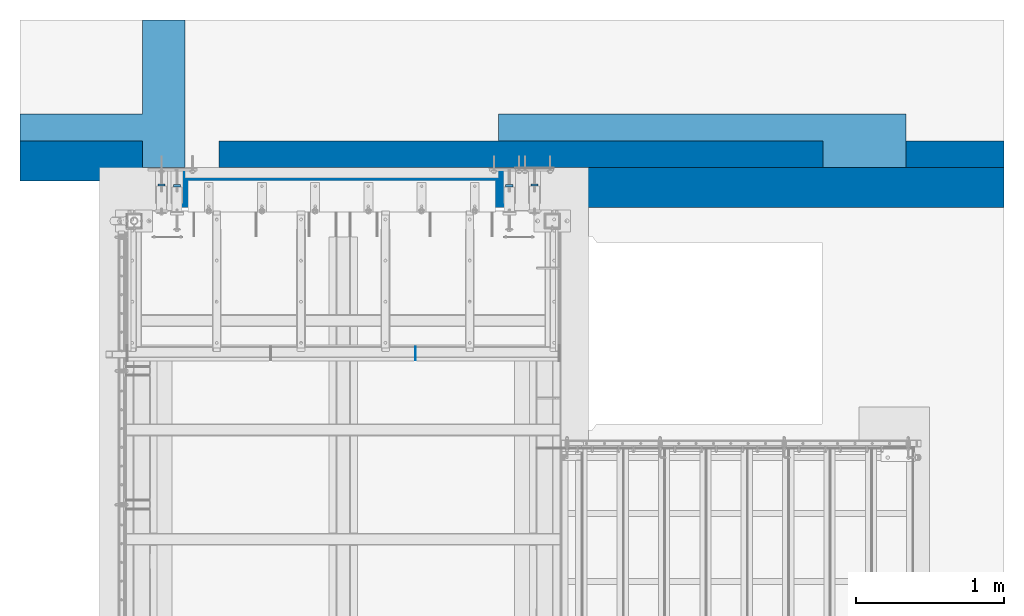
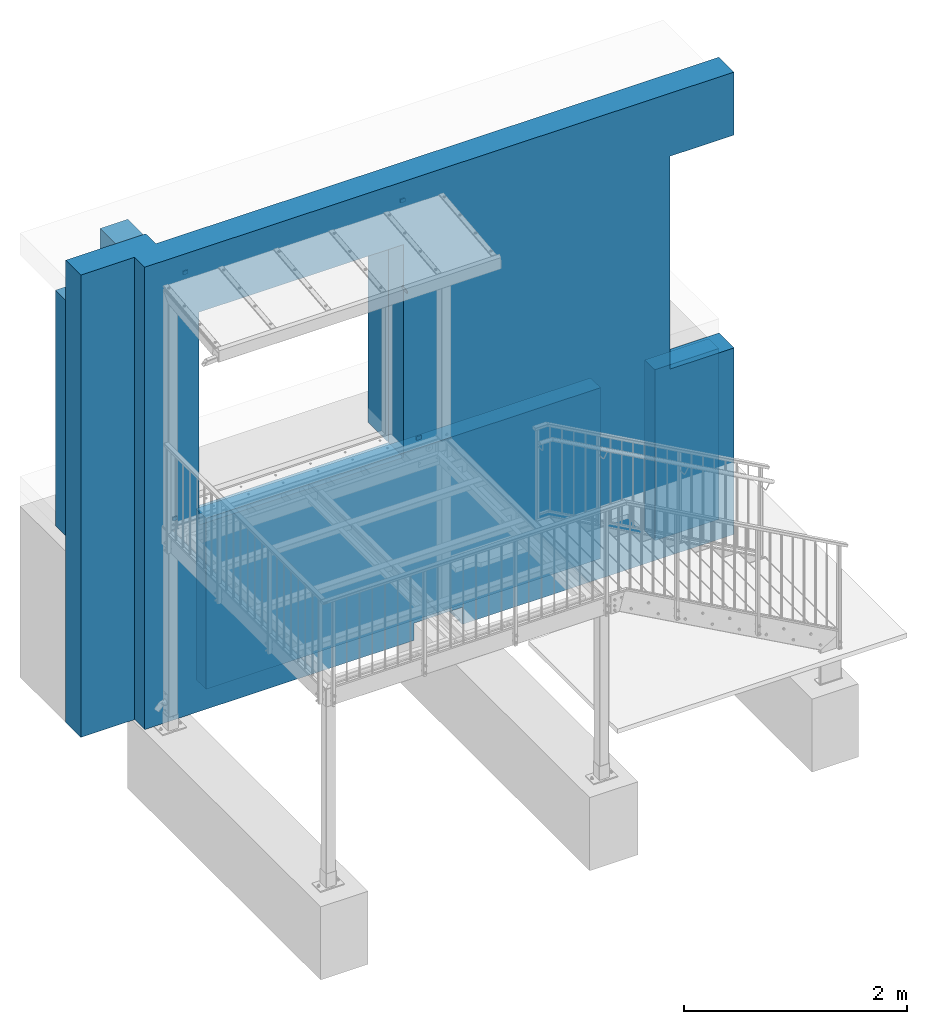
# One storey, part 27 of 116: 5 plates, 3 walls, 20 openings.
"""IFC2X3 building model written with IfcOpenShell, lengths in millimetres."""

import ifcopenshell
import ifcopenshell.guid

model = None  # the IFC model being written
_history = None  # IfcOwnerHistory: only IFC2X3 demands one
_inside = {}  # id of a spatial element -> (the spatial element, [elements in it])
_under = {}  # id of a project, library or spatial element -> (it, [spatial elements below it])
_declared = {}  # id of a project -> (the project, [libraries it declares])
_typed = {}  # id of a type object -> (the type object, [elements of that type])
_made_of = {}  # id of a material, layer set ... -> (it, [elements and type objects made of it])


def new_model(schema):
    """Start an empty IFC model of exactly this schema.

    Asked for "IFC4X3", IfcOpenShell would pick the latest addendum, in which some entities
    have other attributes; the version numbers below select the first issue.
    IFC2X3 requires an IfcOwnerHistory on every rooted entity: one is made here for all.
    """
    global model, _history
    if schema == "IFC4X3":
        model = ifcopenshell.file(schema_version=(4, 3, 0, 0))
    else:
        model = ifcopenshell.file(schema=schema)
    _inside.clear()
    _under.clear()
    _declared.clear()
    _typed.clear()
    _made_of.clear()
    _history = None
    if model.schema == "IFC2X3":
        org = make("IfcOrganization", Name="unknown")
        user = make(
            "IfcPersonAndOrganization",
            ThePerson=make("IfcPerson", FamilyName="unknown"),
            TheOrganization=org,
        )
        app = make(
            "IfcApplication",
            ApplicationDeveloper=org,
            Version="unknown",
            ApplicationFullName="unknown",
            ApplicationIdentifier="unknown",
        )
        _history = make(
            "IfcOwnerHistory",
            OwningUser=user,
            OwningApplication=app,
            ChangeAction="ADDED",
            CreationDate=0,
        )
    return model


def make(cls, **values):
    """One entity of the class cls with the attributes given. An attribute that is None is left unset."""
    return model.create_entity(
        cls, **{name: value for name, value in values.items() if value is not None}
    )


def entity(cls, *values):
    """Any entity or typed value of the class cls, its attributes in the order of the schema. None: left unset."""
    e = model.create_entity(cls)
    for i, value in enumerate(values):
        if value is not None:
            e[i] = value
    return e


def rooted(cls, **values):
    """An entity with a GlobalId (a new one), such as an element, a storey or a relation."""
    return make(cls, GlobalId=ifcopenshell.guid.new(), OwnerHistory=_history, **values)


def si_unit(unit_type, name, prefix=None):
    """IfcSIUnit, for example si_unit("LENGTHUNIT", "METRE", prefix="MILLI")."""
    return make("IfcSIUnit", UnitType=unit_type, Prefix=prefix, Name=name)


def converted_unit(unit_type, name, factor, base, dimensions=None, offset=None):
    """IfcConversionBasedUnit, such as the inch: factor (a typed value) times the base unit."""
    return make(
        "IfcConversionBasedUnit"
        if offset is None
        else "IfcConversionBasedUnitWithOffset",
        ConversionOffset=offset,
        Dimensions=None
        if dimensions is None
        else entity("IfcDimensionalExponents", *dimensions),
        UnitType=unit_type,
        Name=name,
        ConversionFactor=make(
            "IfcMeasureWithUnit", ValueComponent=factor, UnitComponent=base
        ),
    )


def assignment(units):
    """IfcUnitAssignment: the units of a project."""
    return None if units is None else make("IfcUnitAssignment", Units=units)


def point(xyz):
    """IfcCartesianPoint."""
    return None if xyz is None else make("IfcCartesianPoint", Coordinates=xyz)


def direction(xyz):
    """IfcDirection."""
    return None if xyz is None else make("IfcDirection", DirectionRatios=xyz)


def frame(location, z_axis=None, x_axis=None):
    """IfcAxis2Placement3D, a coordinate frame: its origin and axes. An axis left out is left unset."""
    return make(
        "IfcAxis2Placement3D",
        Location=point(location),
        Axis=direction(z_axis),
        RefDirection=direction(x_axis),
    )


def frame_2d(location, x_axis=None):
    """IfcAxis2Placement2D, a coordinate frame in the plane: its origin and x axis."""
    return make(
        "IfcAxis2Placement2D", Location=point(location), RefDirection=direction(x_axis)
    )


def origin():
    """The frame at (0, 0, 0) with its axes left unset."""
    return frame((0.0, 0.0, 0.0))


def origin_with_axes():
    """The frame at (0, 0, 0) with the z axis (0, 0, 1) and the x axis (1, 0, 0) written out."""
    return frame((0.0, 0.0, 0.0), z_axis=(0.0, 0.0, 1.0), x_axis=(1.0, 0.0, 0.0))


def place(relative_to, where):
    """IfcLocalPlacement: puts the frame where relative to a parent placement (None: the world)."""
    return make(
        "IfcLocalPlacement", PlacementRelTo=relative_to, RelativePlacement=where
    )


def context(
    kind, dimensions, precision=None, world=None, true_north=None, identifier=None
):
    """IfcGeometricRepresentationContext, for example the 3D "Model" context."""
    return make(
        "IfcGeometricRepresentationContext",
        ContextIdentifier=identifier,
        ContextType=kind,
        CoordinateSpaceDimension=dimensions,
        Precision=precision,
        WorldCoordinateSystem=world,
        TrueNorth=true_north,
    )


def project(units=None, contexts=None):
    """IfcProject with its units and contexts."""
    return rooted(
        "IfcProject",
        Name="project",
        RepresentationContexts=contexts,
        UnitsInContext=assignment(units),
    )


def spatial(cls, under=None, at=None, **own):
    """A site, building, storey or space (cls), placed at a placement, below another one or the project."""
    s = rooted(cls, ObjectPlacement=at, **own)
    if under is not None:
        _under.setdefault(under.id(), (under, []))[1].append(s)
    return s


def polyline(points):
    """IfcPolyline through the points."""
    return make("IfcPolyline", Points=[point(p) for p in points])


def circle_curve(where, radius):
    """IfcCircle in the frame where."""
    return make("IfcCircle", Position=where, Radius=radius)


def line_curve(start, along, magnitude):
    """IfcLine from a point along a vector."""
    return make(
        "IfcLine",
        Pnt=point(start),
        Dir=make("IfcVector", Orientation=direction(along), Magnitude=magnitude),
    )


def trimmed(basis, trim1, trim2, sense, master):
    """IfcTrimmedCurve: the piece of a basis curve between two trims."""
    return make(
        "IfcTrimmedCurve",
        BasisCurve=basis,
        Trim1=trim1,
        Trim2=trim2,
        SenseAgreement=sense,
        MasterRepresentation=master,
    )


def segment(curve, same_sense, transition):
    """IfcCompositeCurveSegment."""
    return make(
        "IfcCompositeCurveSegment",
        Transition=transition,
        SameSense=same_sense,
        ParentCurve=curve,
    )


def composite_curve(segments, self_intersect=None):
    """IfcCompositeCurve: segments joined end to end."""
    return make("IfcCompositeCurve", Segments=segments, SelfIntersect=self_intersect)


def outline(outer, holes=None, kind="AREA"):
    """IfcArbitraryClosedProfileDef: a profile drawn as a closed curve; with holes, ...WithVoids."""
    if holes is None:
        return make("IfcArbitraryClosedProfileDef", ProfileType=kind, OuterCurve=outer)
    return make(
        "IfcArbitraryProfileDefWithVoids",
        ProfileType=kind,
        OuterCurve=outer,
        InnerCurves=holes,
    )


def extrude(swept, where, along, depth):
    """IfcExtrudedAreaSolid: the profile swept, set in the frame where, extruded along a direction by depth."""
    return make(
        "IfcExtrudedAreaSolid",
        SweptArea=swept,
        Position=where,
        ExtrudedDirection=direction(along),
        Depth=depth,
    )


def shape(context_of_items, identifier, shape_type, items):
    """IfcShapeRepresentation: the items that make up one representation, for example the "Body"."""
    return make(
        "IfcShapeRepresentation",
        ContextOfItems=context_of_items,
        RepresentationIdentifier=identifier,
        RepresentationType=shape_type,
        Items=items,
    )


def material(Name=None, Category=None):
    """IfcMaterial."""
    return make("IfcMaterial", Name=Name, Category=Category)


def layer(
    of_material, thickness, ventilated=None, Name=None, Category=None, Priority=None
):
    """IfcMaterialLayer: one layer of a wall or slab, of a material (None: an air gap)."""
    return make(
        "IfcMaterialLayer",
        Material=of_material,
        LayerThickness=thickness,
        IsVentilated=ventilated,
        Name=Name,
        Category=Category,
        Priority=Priority,
    )


def layer_set(layers, Name=None):
    """IfcMaterialLayerSet."""
    return make("IfcMaterialLayerSet", MaterialLayers=layers, LayerSetName=Name)


def made_of(thing, what):
    """Note that an element or type object is made of a material, layer set ...; save() writes the relation."""
    if what is not None:
        _made_of.setdefault(what.id(), (what, []))[1].append(thing)
    return thing


def element(
    cls,
    number,
    at=None,
    inside=None,
    cuts=None,
    type_object=None,
    material=None,
    context=None,
    identifier="Body",
    shape_type=None,
    held_by="IfcProductDefinitionShape",
    body=None,
    shapes=None,
    **own,
):
    """One element of the class cls, such as IfcWall. Its Tag is "e" and its number.

    at: its placement. inside: the storey or other place that contains it. cuts: it is an
    opening in that element (IfcRelVoidsElement). A single representation is given by context,
    identifier, shape_type and body (its items); several are given by shapes. held_by: the class
    of the entity that holds the representations. save() writes the other relations.
    """
    e = rooted(cls, Tag="e%d" % number, ObjectPlacement=at, **own)
    if body is not None:
        shapes = [shape(context, identifier, shape_type, body)]
    if shapes is not None:
        e.Representation = make(held_by, Representations=shapes)
    if inside is not None:
        _inside.setdefault(inside.id(), (inside, []))[1].append(e)
    if cuts is not None:
        rooted(
            "IfcRelVoidsElement", RelatingBuildingElement=cuts, RelatedOpeningElement=e
        )
    if type_object is not None:
        _typed.setdefault(type_object.id(), (type_object, []))[1].append(e)
    return made_of(e, material)


def aggregate(whole, parts):
    """IfcRelAggregates: a whole, such as a stair, and the parts it consists of."""
    return rooted("IfcRelAggregates", RelatingObject=whole, RelatedObjects=parts)


def save(model, path):
    """Write the relations noted so far, then the file.

    IfcRelAggregates (storeys below a building ...), IfcRelContainedInSpatialStructure (elements
    in a storey), IfcRelDefinesByType, IfcRelAssociatesMaterial and IfcRelDeclares: one each for
    every whole, place, type object, material and project.
    """
    for whole, parts in _under.values():
        aggregate(whole, parts)
    for where, things in _inside.values():
        rooted(
            "IfcRelContainedInSpatialStructure",
            RelatedElements=things,
            RelatingStructure=where,
        )
    for kind, things in _typed.values():
        rooted("IfcRelDefinesByType", RelatedObjects=things, RelatingType=kind)
    for what, things in _made_of.values():
        rooted("IfcRelAssociatesMaterial", RelatedObjects=things, RelatingMaterial=what)
    for by, libraries in _declared.values():
        rooted("IfcRelDeclares", RelatingContext=by, RelatedDefinitions=libraries)
    model.write(path)


model = new_model("IFC2X3")

# Units and contexts
model_context = context("Model", 3, precision=1e-09, world=origin_with_axes())
ifc_project = project(units=[si_unit("LENGTHUNIT", "METRE", prefix="MILLI"), si_unit("AREAUNIT", "SQUARE_METRE"), si_unit("VOLUMEUNIT", "CUBIC_METRE"), converted_unit("PLANEANGLEUNIT", "DEGREE", entity("IfcPlaneAngleMeasure", 0.01745329), si_unit("PLANEANGLEUNIT", "RADIAN"), dimensions=[0, 0, 0, 0, 0, 0, 0])], contexts=[model_context])

# Site, building, storey
site_placement = place(None, origin_with_axes())
site = spatial("IfcSite", under=ifc_project, at=site_placement, Name="Site", CompositionType="ELEMENT")
building_placement = place(site_placement, origin_with_axes())
building = spatial("IfcBuilding", under=site, at=building_placement, Name="Struktur 1", CompositionType="ELEMENT")
storey_placement = place(building_placement, origin_with_axes())
storey = spatial("IfcBuildingStorey", under=building, at=storey_placement, Name="Default Storey", CompositionType="ELEMENT", Elevation=0.0)

# Plate
ifc_material_1 = material(Name="S235JR")
ifc_layer_1 = layer(ifc_material_1, 5.0)
ifc_layer_set_1 = layer_set([ifc_layer_1], Name="S235JR")
plate_1_placement = place(None, frame((57244.549135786, 11105.893620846, 2498.978607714), z_axis=(-1.0, 0.0, 0.0), x_axis=(0.0, 0.104528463, -0.994521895)))
element("IfcPlate", 1, at=plate_1_placement, inside=storey, material=ifc_layer_set_1, Name="-", ObjectType="-", context=model_context, shape_type="SweptSolid", body=[
    extrude(outline(polyline([(0.0, 0.0), (30.0, 0.0), (30.000000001, 91.170030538), (2e-09, 88.016903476), (0.0, 0.0)])), origin_with_axes(), (0.0, 0.0, 1.0), 5.0),
])

# Plate, openings
ifc_material_2 = material(Name="S355JR")
ifc_layer_2 = layer(ifc_material_2, 15.0)
ifc_layer_set_2 = layer_set([ifc_layer_2], Name="S355JR")
plate_2_placement = place(None, frame((58072.029126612, 12212.357883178, -95.000000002), z_axis=(0.0, -1.0, 0.0), x_axis=(-1.0, 0.0, 0.0)))
plate_2 = element("IfcPlate", 2, at=plate_2_placement, inside=storey, material=ifc_layer_set_2, Name="-", ObjectType="-", context=model_context, shape_type="SweptSolid", body=[
    extrude(outline(polyline([(0.0, 0.0), (49.959983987, 0.0), (65.972799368, 20.0), (49.959983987, 40.0), (0.0, 40.0), (-16.012815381, 20.0), (0.0, 0.0)])), origin_with_axes(), (0.0, 0.0, 1.0), 15.0),
])
opening_1_placement = place(plate_2_placement, frame((0.0, 0.0, -0.01), z_axis=(0.0, 0.0, 1.0), x_axis=(1.0, 0.0, 0.0)))
element("IfcOpeningElement", 3, at=opening_1_placement, cuts=plate_2, ObjectType="Opening", context=model_context, shape_type="SweptSolid", body=[
    extrude(outline(composite_curve([segment(trimmed(line_curve((65.972799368, 20.0), (-0.625, 0.78062475), 25.620504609), [point((65.972799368, 20.0))], [point((49.959983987, 40.0))], True, "CARTESIAN"), True, "CONTINUOUS"), segment(trimmed(circle_curve(frame_2d((24.979991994, 20.0), x_axis=(-1.0, 0.0)), 32.0), [point((49.959983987, 40.0))], [point((49.959983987, 0.0))], False, "CARTESIAN"), True, "CONTINUOUS"), segment(trimmed(line_curve((49.959983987, 0.0), (0.625, 0.78062475), 25.620504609), [point((49.959983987, 0.0))], [point((65.972799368, 20.0))], True, "CARTESIAN"), True, "CONTINUOUS")], self_intersect=False)), origin(), (0.0, 0.0, 1.0), 15.02),
])
opening_2_placement = place(plate_2_placement, frame((0.0, 0.0, -0.01), z_axis=(0.0, 0.0, 1.0), x_axis=(1.0, 0.0, 0.0)))
element("IfcOpeningElement", 4, at=opening_2_placement, cuts=plate_2, ObjectType="Opening", context=model_context, shape_type="SweptSolid", body=[
    extrude(outline(composite_curve([segment(trimmed(line_curve((-16.012815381, 20.0), (0.625, -0.78062475), 25.620504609), [point((-16.012815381, 20.0))], [point((0.0, 0.0))], True, "CARTESIAN"), True, "CONTINUOUS"), segment(trimmed(circle_curve(frame_2d((24.979991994, 20.0), x_axis=(-1.0, 0.0)), 32.0), [point((0.0, 0.0))], [point((0.0, 40.0))], False, "CARTESIAN"), True, "CONTINUOUS"), segment(trimmed(line_curve((0.0, 40.0), (-0.625, -0.78062475), 25.620504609), [point((0.0, 40.0))], [point((-16.012815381, 20.0))], True, "CARTESIAN"), True, "CONTINUOUS")], self_intersect=False)), origin(), (0.0, 0.0, 1.0), 15.02),
])

plate_3_placement = place(None, frame((55497.069142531, 12212.357883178, -95.000000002), z_axis=(0.0, 1.0, 0.0), x_axis=(1.0, 0.0, 0.0)))
plate_3 = element("IfcPlate", 5, at=plate_3_placement, inside=storey, material=ifc_layer_set_2, Name="-", ObjectType="-", context=model_context, shape_type="SweptSolid", body=[
    extrude(outline(polyline([(0.0, 0.0), (49.959983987, 0.0), (65.972799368, 20.0), (49.959983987, 40.0), (0.0, 40.0), (-16.012815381, 20.0), (0.0, 0.0)])), origin_with_axes(), (0.0, 0.0, -1.0), 15.0),
])
opening_3_placement = place(plate_3_placement, frame((65.972799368, 20.0, 0.01), z_axis=(0.0, 0.0, 1.0), x_axis=(-0.625, 0.78062475, 0.0)))
element("IfcOpeningElement", 6, at=opening_3_placement, cuts=plate_3, ObjectType="Opening", context=model_context, shape_type="SweptSolid", body=[
    extrude(outline(composite_curve([segment(trimmed(line_curve((0.0, 0.0), (1.0, 0.0), 25.620504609), [point((0.0, 0.0))], [point((25.620504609, 0.0))], True, "CARTESIAN"), True, "CONTINUOUS"), segment(trimmed(circle_curve(frame_2d((25.620504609, 32.0), x_axis=(-1.0, 0.0)), 32.0), [point((25.620504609, 0.0))], [point((-5.604485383, 25.0))], False, "CARTESIAN"), True, "CONTINUOUS"), segment(trimmed(line_curve((-5.604485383, 25.0), (0.21875, -0.975780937), 25.620504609), [point((-5.604485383, 25.0))], [point((0.0, 0.0))], True, "CARTESIAN"), True, "CONTINUOUS")], self_intersect=False)), origin(), (0.0, 0.0, -1.0), 15.02),
])
opening_4_placement = place(plate_3_placement, frame((-16.012815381, 20.0, 0.01), z_axis=(0.0, 0.0, 1.0), x_axis=(0.625, -0.78062475, 0.0)))
element("IfcOpeningElement", 7, at=opening_4_placement, cuts=plate_3, ObjectType="Opening", context=model_context, shape_type="SweptSolid", body=[
    extrude(outline(composite_curve([segment(trimmed(line_curve((0.0, 0.0), (1.0, 0.0), 25.620504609), [point((0.0, 0.0))], [point((25.620504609, 0.0))], True, "CARTESIAN"), True, "CONTINUOUS"), segment(trimmed(circle_curve(frame_2d((25.620504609, 32.0), x_axis=(-1.0, 0.0)), 32.0), [point((25.620504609, 0.0))], [point((-5.604485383, 25.0))], False, "CARTESIAN"), True, "CONTINUOUS"), segment(trimmed(line_curve((-5.604485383, 25.0), (0.21875, -0.975780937), 25.620504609), [point((-5.604485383, 25.0))], [point((0.0, 0.0))], True, "CARTESIAN"), True, "CONTINUOUS")], self_intersect=False)), origin(), (0.0, 0.0, -1.0), 15.02),
])

plate_4_placement = place(None, frame((55602.069142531, 12208.417883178, 2564.999999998), z_axis=(0.0, 1.0, 0.0), x_axis=(1.0, 0.0, 0.0)))
plate_4 = element("IfcPlate", 8, at=plate_4_placement, inside=storey, material=ifc_layer_set_2, Name="-", ObjectType="-", context=model_context, shape_type="SweptSolid", body=[
    extrude(outline(polyline([(0.0, 0.0), (49.959983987, 0.0), (65.972799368, 20.0), (49.959983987, 40.0), (0.0, 40.0), (-16.012815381, 20.0), (0.0, 0.0)])), origin_with_axes(), (0.0, 0.0, -1.0), 15.0),
])
opening_5_placement = place(plate_4_placement, frame((65.972799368, 20.0, 0.01), z_axis=(0.0, 0.0, 1.0), x_axis=(-0.625, 0.78062475, 0.0)))
element("IfcOpeningElement", 9, at=opening_5_placement, cuts=plate_4, ObjectType="Opening", context=model_context, shape_type="SweptSolid", body=[
    extrude(outline(composite_curve([segment(trimmed(line_curve((0.0, 0.0), (1.0, 0.0), 25.620504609), [point((0.0, 0.0))], [point((25.620504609, 0.0))], True, "CARTESIAN"), True, "CONTINUOUS"), segment(trimmed(circle_curve(frame_2d((25.620504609, 32.0), x_axis=(-1.0, 0.0)), 32.0), [point((25.620504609, 0.0))], [point((-5.604485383, 25.0))], False, "CARTESIAN"), True, "CONTINUOUS"), segment(trimmed(line_curve((-5.604485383, 25.0), (0.21875, -0.975780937), 25.620504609), [point((-5.604485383, 25.0))], [point((0.0, 0.0))], True, "CARTESIAN"), True, "CONTINUOUS")], self_intersect=False)), origin(), (0.0, 0.0, -1.0), 15.02),
])
opening_6_placement = place(plate_4_placement, frame((-16.012815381, 20.0, 0.01), z_axis=(0.0, 0.0, 1.0), x_axis=(0.625, -0.78062475, 0.0)))
element("IfcOpeningElement", 10, at=opening_6_placement, cuts=plate_4, ObjectType="Opening", context=model_context, shape_type="SweptSolid", body=[
    extrude(outline(composite_curve([segment(trimmed(line_curve((0.0, 0.0), (1.0, 0.0), 25.620504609), [point((0.0, 0.0))], [point((25.620504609, 0.0))], True, "CARTESIAN"), True, "CONTINUOUS"), segment(trimmed(circle_curve(frame_2d((25.620504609, 32.0), x_axis=(-1.0, 0.0)), 32.0), [point((25.620504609, 0.0))], [point((-5.604485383, 25.0))], False, "CARTESIAN"), True, "CONTINUOUS"), segment(trimmed(line_curve((-5.604485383, 25.0), (0.21875, -0.975780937), 25.620504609), [point((-5.604485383, 25.0))], [point((0.0, 0.0))], True, "CARTESIAN"), True, "CONTINUOUS")], self_intersect=False)), origin(), (0.0, 0.0, -1.0), 15.02),
])

plate_5_placement = place(None, frame((57902.029126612, 12208.417883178, 2564.999999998), z_axis=(0.0, -1.0, 0.0), x_axis=(-1.0, 0.0, 0.0)))
plate_5 = element("IfcPlate", 11, at=plate_5_placement, inside=storey, material=ifc_layer_set_2, Name="-", ObjectType="-", context=model_context, shape_type="SweptSolid", body=[
    extrude(outline(polyline([(0.0, 0.0), (49.959983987, 0.0), (65.972799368, 20.0), (49.959983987, 40.0), (0.0, 40.0), (-16.012815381, 20.0), (0.0, 0.0)])), origin_with_axes(), (0.0, 0.0, 1.0), 15.0),
])
opening_7_placement = place(plate_5_placement, frame((0.0, 0.0, -0.01), z_axis=(0.0, 0.0, 1.0), x_axis=(1.0, 0.0, 0.0)))
element("IfcOpeningElement", 12, at=opening_7_placement, cuts=plate_5, ObjectType="Opening", context=model_context, shape_type="SweptSolid", body=[
    extrude(outline(composite_curve([segment(trimmed(line_curve((65.972799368, 20.0), (-0.625, 0.78062475), 25.620504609), [point((65.972799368, 20.0))], [point((49.959983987, 40.0))], True, "CARTESIAN"), True, "CONTINUOUS"), segment(trimmed(circle_curve(frame_2d((24.979991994, 20.0), x_axis=(-1.0, 0.0)), 32.0), [point((49.959983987, 40.0))], [point((49.959983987, 0.0))], False, "CARTESIAN"), True, "CONTINUOUS"), segment(trimmed(line_curve((49.959983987, 0.0), (0.625, 0.78062475), 25.620504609), [point((49.959983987, 0.0))], [point((65.972799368, 20.0))], True, "CARTESIAN"), True, "CONTINUOUS")], self_intersect=False)), origin(), (0.0, 0.0, 1.0), 15.02),
])
opening_8_placement = place(plate_5_placement, frame((0.0, 0.0, -0.01), z_axis=(0.0, 0.0, 1.0), x_axis=(1.0, 0.0, 0.0)))
element("IfcOpeningElement", 13, at=opening_8_placement, cuts=plate_5, ObjectType="Opening", context=model_context, shape_type="SweptSolid", body=[
    extrude(outline(composite_curve([segment(trimmed(line_curve((-16.012815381, 20.0), (0.625, -0.78062475), 25.620504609), [point((-16.012815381, 20.0))], [point((0.0, 0.0))], True, "CARTESIAN"), True, "CONTINUOUS"), segment(trimmed(circle_curve(frame_2d((24.979991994, 20.0), x_axis=(-1.0, 0.0)), 32.0), [point((0.0, 0.0))], [point((0.0, 40.0))], False, "CARTESIAN"), True, "CONTINUOUS"), segment(trimmed(line_curve((0.0, 40.0), (-0.625, -0.78062475), 25.620504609), [point((0.0, 40.0))], [point((-16.012815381, 20.0))], True, "CARTESIAN"), True, "CONTINUOUS")], self_intersect=False)), origin(), (0.0, 0.0, 1.0), 15.02),
])

# Wall, openings
ifc_material_3 = material(Name="Mauer")
ifc_layer_3 = layer(ifc_material_3, 1000.0)
ifc_layer_set_3 = layer_set([ifc_layer_3], Name="Mauer")
wall_1_placement = place(None, frame((57894.547502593, 13322.359883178, 1135.0), z_axis=(0.0, -1.0, 0.0), x_axis=(1.0, 0.0, 0.0)))
wall_1 = element("IfcWall", 14, at=wall_1_placement, inside=storey, material=ifc_layer_set_3, Name="Gokoba_Mauerwerk", ObjectType="Gokoba_Mauerwerk", context=model_context, shape_type="SweptSolid", body=[
    extrude(outline(polyline([(-3330.527049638, -1290.0), (3330.527049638, -1290.0), (3330.527049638, 1290.0), (-3330.527049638, 1290.0), (-3330.527049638, -1290.0)])), origin_with_axes(), (0.0, 0.0, 1.0), 1000.0),
])
opening_9_placement = place(wall_1_placement, frame((0.0, 0.0, -0.1), z_axis=(0.0, 0.0, 1.0), x_axis=(1.0, 0.0, 0.0)))
element("IfcOpeningElement", 15, at=opening_9_placement, cuts=wall_1, ObjectType="Opening", context=model_context, shape_type="SweptSolid", body=[
    extrude(outline(polyline([(-2212.499368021, -1290.001), (-92.497368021, -1290.001), (-92.497368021, 1290.001), (-2212.499368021, 1290.001), (-2212.499368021, -1290.001)])), origin(), (0.0, 0.0, 1.0), 1000.2),
])
opening_10_placement = place(wall_1_placement, frame((0.0, -1290.1, 500.0), z_axis=(0.0, 1.0, 0.0), x_axis=(1.0, 0.0, 0.0)))
element("IfcOpeningElement", 16, at=opening_10_placement, cuts=wall_1, ObjectType="Opening", context=model_context, shape_type="SweptSolid", body=[
    extrude(outline(polyline([(-3775.93778379, -593.884635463), (-2502.498368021, -593.884635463), (-2502.498368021, -319.998), (-3775.93778379, -319.998), (-3775.93778379, -593.884635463)])), origin(), (0.0, 0.0, 1.0), 2580.2),
])
opening_11_placement = place(wall_1_placement, frame((0.0, -1290.1, 500.0), z_axis=(0.0, 1.0, 0.0), x_axis=(1.0, 0.0, 0.0)))
element("IfcOpeningElement", 17, at=opening_11_placement, cuts=wall_1, ObjectType="Opening", context=model_context, shape_type="SweptSolid", body=[
    extrude(outline(polyline([(-3798.203517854, -135.001), (-2502.498368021, -135.001), (-2502.498368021, 858.819029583), (-3798.203517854, 858.819029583), (-3798.203517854, -135.001)])), origin(), (0.0, 0.0, 1.0), 2580.2),
])
opening_12_placement = place(wall_1_placement, frame((0.0, -1290.1, 500.0), z_axis=(0.0, 1.0, 0.0), x_axis=(1.0, 0.0, 0.0)))
element("IfcOpeningElement", 18, at=opening_12_placement, cuts=wall_1, ObjectType="Opening", context=model_context, shape_type="SweptSolid", body=[
    extrude(outline(polyline([(-407.11304409, -135.001), (3905.178263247, -135.001), (3905.178263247, 943.067799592), (-407.11304409, 943.067799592), (-407.11304409, -135.001)])), origin(), (0.0, 0.0, 1.0), 2580.2),
])
opening_13_placement = place(wall_1_placement, frame((3330.627049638, 0.0, 500.0), z_axis=(-1.0, 0.0, 0.0), x_axis=(0.0, 1.0, 0.0)))
element("IfcOpeningElement", 19, at=opening_13_placement, cuts=wall_1, ObjectType="Opening", context=model_context, shape_type="SweptSolid", body=[
    extrude(outline(polyline([(-1290.001, 182.4985), (938.583545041, 182.4985), (938.583545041, 674.755258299), (-1290.001, 674.755258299), (-1290.001, 182.4985)])), origin(), (0.0, 0.0, 1.0), 6661.254099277),
])
opening_14_placement = place(wall_1_placement, frame((0.0, 0.0, -0.1), z_axis=(0.0, 0.0, 1.0), x_axis=(1.0, 0.0, 0.0)))
element("IfcOpeningElement", 20, at=opening_14_placement, cuts=wall_1, ObjectType="Opening", context=model_context, shape_type="SweptSolid", body=[
    extrude(outline(polyline([(2665.498631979, -1290.001), (3669.226441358, -1290.001), (3669.226441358, 1290.001), (2665.498631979, 1290.001), (2665.498631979, -1290.001)])), origin(), (0.0, 0.0, 1.0), 1000.2),
])

ifc_material_4 = material(Name="C25/30")
ifc_layer_4 = layer(ifc_material_4, 450.0)
ifc_layer_set_4 = layer_set([ifc_layer_4], Name="C25/30")
wall_2_placement = place(None, frame((57894.547502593, 12502.359883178, 334.0), z_axis=(0.0, -1.0, 0.0), x_axis=(1.0, 0.0, 0.0)))
wall_2 = element("IfcWall", 21, at=wall_2_placement, inside=storey, material=ifc_layer_set_4, Name="Gokoba_D?mmung", ObjectType="Gokoba_D?mmung", context=model_context, shape_type="SweptSolid", body=[
    extrude(outline(polyline([(-3330.527049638, -2531.0), (3330.527049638, -2531.0), (3330.527049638, 2531.0), (-3330.527049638, 2531.0), (-3330.527049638, -2531.0)])), origin_with_axes(), (0.0, 0.0, 1.0), 450.0),
])
opening_15_placement = place(wall_2_placement, frame((0.0, -2531.1, 225.0), z_axis=(0.0, 1.0, 0.0), x_axis=(1.0, 0.0, 0.0)))
element("IfcOpeningElement", 22, at=opening_15_placement, cuts=wall_2, ObjectType="Opening", context=model_context, shape_type="SweptSolid", body=[
    extrude(outline(polyline([(-3773.180733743, -448.100225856), (-2772.498368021, -448.100225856), (-2772.498368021, -44.996), (-3773.180733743, -44.996), (-3773.180733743, -448.100225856)])), origin(), (0.0, 0.0, 1.0), 5062.2),
])
opening_16_placement = place(wall_2_placement, frame((0.0, -2531.1, 225.0), z_axis=(0.0, 1.0, 0.0), x_axis=(1.0, 0.0, 0.0)))
element("IfcOpeningElement", 23, at=opening_16_placement, cuts=wall_2, ObjectType="Opening", context=model_context, shape_type="SweptSolid", body=[
    extrude(outline(polyline([(-2502.500368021, 44.998), (3942.540339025, 44.998), (3942.540339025, 690.896611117), (-2502.500368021, 690.896611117), (-2502.500368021, 44.998)])), origin(), (0.0, 0.0, 1.0), 5062.2),
])
opening_17_placement = place(wall_2_placement, frame((0.0, 0.0, -0.1), z_axis=(0.0, 0.0, 1.0), x_axis=(1.0, 0.0, 0.0)))
element("IfcOpeningElement", 24, at=opening_17_placement, cuts=wall_2, ObjectType="Opening", context=model_context, shape_type="SweptSolid", body=[
    extrude(outline(polyline([(-2212.497368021, -489.002), (-92.496368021, -489.002), (-92.496368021, 1841.002), (-2212.497368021, 1841.002), (-2212.497368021, -489.002)])), origin(), (0.0, 0.0, 1.0), 450.2),
])
opening_18_placement = place(wall_2_placement, frame((0.0, 0.0, -0.1), z_axis=(0.0, 0.0, 1.0), x_axis=(1.0, 0.0, 0.0)))
element("IfcOpeningElement", 25, at=opening_18_placement, cuts=wall_2, ObjectType="Opening", context=model_context, shape_type="SweptSolid", body=[
    extrude(outline(polyline([(2665.498631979, -489.002), (3698.816466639, -489.002), (3698.816466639, 1841.002), (2665.498631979, 1841.002), (2665.498631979, -489.002)])), origin(), (0.0, 0.0, 1.0), 450.2),
])
opening_19_placement = place(wall_2_placement, frame((0.0, 0.0, -0.1), z_axis=(0.0, 0.0, 1.0), x_axis=(1.0, 0.0, 0.0)))
element("IfcOpeningElement", 26, at=opening_19_placement, cuts=wall_2, ObjectType="Opening", context=model_context, shape_type="SweptSolid", body=[
    extrude(outline(polyline([(17.500631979, -2702.052576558), (517.502631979, -2702.052576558), (517.502631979, -2342.998), (17.500631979, -2342.998), (17.500631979, -2702.052576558)])), origin(), (0.0, 0.0, 1.0), 450.2),
])

# Wall, opening
ifc_layer_5 = layer(ifc_material_4, 180.0)
ifc_layer_set_5 = layer_set([ifc_layer_5], Name="C25/30")
wall_3_placement = place(None, frame((58568.56087728, 12502.358383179, -1261.0), z_axis=(-1.88e-07, -1.0, 0.0), x_axis=(1.0, -1.88e-07, 0.0)))
wall_3 = element("IfcWall", 27, at=wall_3_placement, inside=storey, material=ifc_layer_set_5, Name="Gokoba_D?mmung", ObjectType="Gokoba_D?mmung", context=model_context, shape_type="SweptSolid", body=[
    extrude(outline(polyline([(-2656.51270883, -936.0), (2656.51270883, -936.0), (2656.51270883, 936.0), (-2656.51270883, 936.0), (-2656.51270883, -936.0)])), origin_with_axes(), (0.0, 0.0, 1.0), 180.0),
])
opening_20_placement = place(wall_3_placement, frame((0.0, -936.1, 90.0), z_axis=(0.0, 1.0, 0.0), x_axis=(1.0, 0.0, -1.88e-07)))
element("IfcOpeningElement", 28, at=opening_20_placement, cuts=wall_3, ObjectType="Opening", context=model_context, shape_type="SweptSolid", body=[
    extrude(outline(polyline([(1431.487274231, -204.543078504), (1991.487274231, -204.543078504), (1991.487274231, 200.099857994), (1431.487274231, 200.099857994), (1431.487274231, -204.543078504)])), origin(), (0.0, 0.0, 1.0), 1872.2),
])

save(model, "model.ifc")
